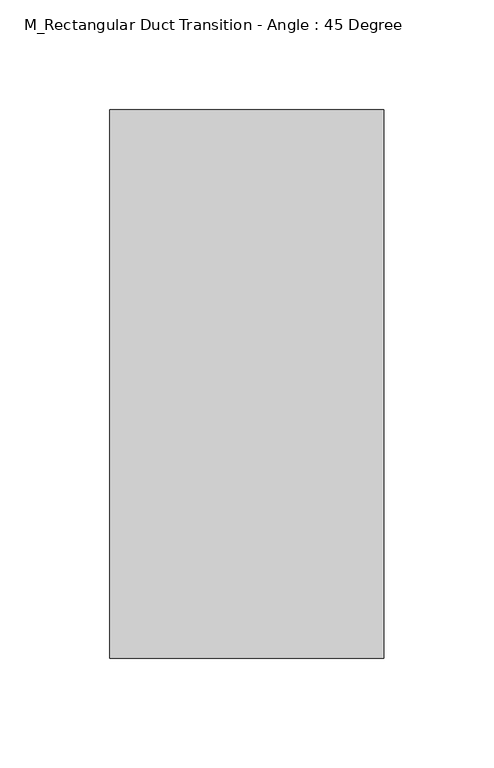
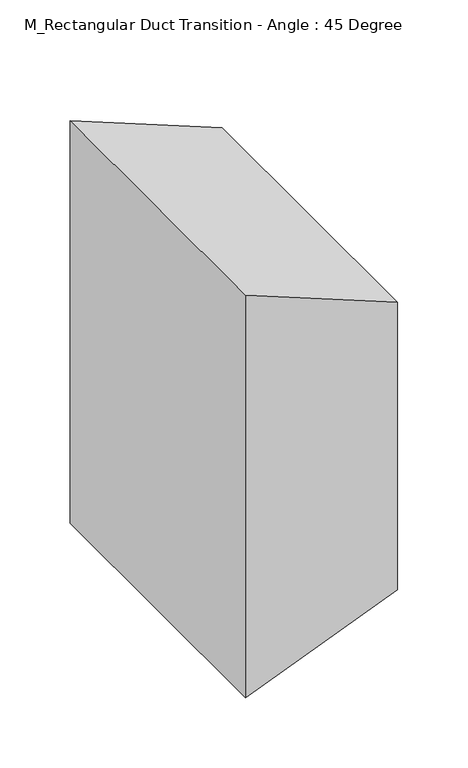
"""IFC4 building model written with IfcOpenShell, lengths in millimetres: duct fitting geometry, M_Rectangular Duct Transition - Angle : 45 Degree."""

from ifc_helpers import new_model, si_unit, frame, origin, place, context, project, spatial, polyline, outline, extrude, source, transform, mapped, element, save


def m_rectangular_duct_transition_angle_45_degree_5227b69a(model_context):
    return source(origin(), model_context, "Body", "SweptSolid", [
        extrude(outline(polyline([(-175.0, 0.0), (175.0, 0.0), (125.0, -125.0), (-125.0, -125.0), (-175.0, 0.0)])), frame((0.0, -125.0, 0.0), z_axis=(-1.611306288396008e-12, 1.0, 0.0), x_axis=(0.0, 0.0, -1.0)), (0.0, 0.0, 1.0), 250.0),
        extrude(outline(polyline([(175.0, 0.0), (-175.0, 0.0), (-125.0, 125.0), (125.0, 125.0), (175.0, 0.0)])), frame((0.0, -125.0, 0.0), z_axis=(0.0, 1.0, 0.0), x_axis=(0.0, 0.0, 1.0)), (0.0, 0.0, 1.0), 250.0),
        extrude(outline(polyline([(175.0, 0.0), (-175.0, 0.0), (-125.0, 125.0), (125.0, 125.0), (175.0, 0.0)])), frame((0.0, -125.0, 0.0), z_axis=(0.0, 1.0, 0.0), x_axis=(0.0, 0.0, 1.0)), (0.0, 0.0, 1.0), 250.0),
    ])


if __name__ == "__main__":
    model = new_model("IFC4")
    model_context = context("Model", 3, world=origin())
    ifc_project = project(units=[si_unit("LENGTHUNIT", "METRE", prefix="MILLI")], contexts=[model_context])
    site = spatial("IfcSite", under=ifc_project)
    building = spatial("IfcBuilding", under=site)
    placement = place(None, origin())
    m_rectangular_duct_transition_angle_45_degree_shape = m_rectangular_duct_transition_angle_45_degree_5227b69a(model_context)
    element("IfcDuctFitting", 1, ObjectType="M_Rectangular Duct Transition - Angle : 45 Degree", at=placement, inside=building, context=model_context, shape_type="MappedRepresentation", body=[
        mapped(m_rectangular_duct_transition_angle_45_degree_shape, transform((0.0, 0.0, 0.0), x_axis=(1.0, 0.0, 0.0), y_axis=(0.0, 1.0, 0.0), z_axis=(0.0, 0.0, 1.0))),
    ])
    save(model, "model.ifc")
